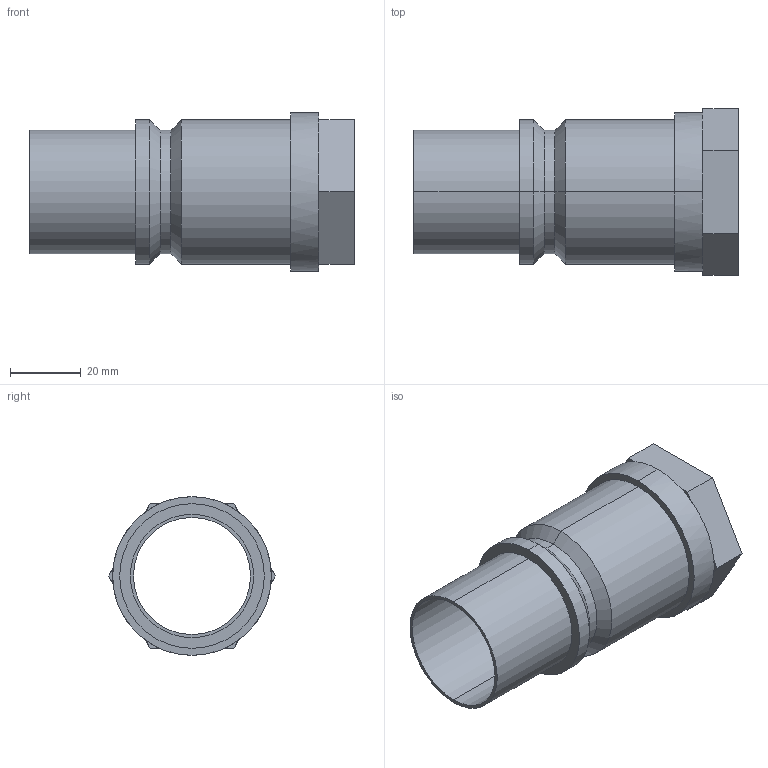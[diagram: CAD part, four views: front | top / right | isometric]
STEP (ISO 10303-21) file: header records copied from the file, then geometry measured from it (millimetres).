
FILE_DESCRIPTION (( 'STEP AP214' ), '1' );
FILE_NAME ('BR601.20 DR 33.STEP', '2020-12-02T13:26:47', ( '' ), ( '' ), 'SwSTEP 2.0', 'SolidWorks 2018', '' );
FILE_SCHEMA (( 'AUTOMOTIVE_DESIGN' ));
Length unit declared in the file: millimetre
Products named in the file (1): BR601.20 DR 33
Bounding box: 92 x 47.34 x 45 mm (x, y, z)
Volume: 32414.6 mm3; surface area: 22776.3 mm2
Topology: 1 solids, 1 shells, 38 faces, 82 edges, 48 vertices
Faces by surface type: plane 22, cylinder 12, cone 4
Entity records: 1060 total; most frequent: DIRECTION 196, CARTESIAN_POINT 169, ORIENTED_EDGE 164, EDGE_CURVE 82, AXIS2_PLACEMENT_3D 75, VERTEX_POINT 48, VECTOR 46, LINE 46
